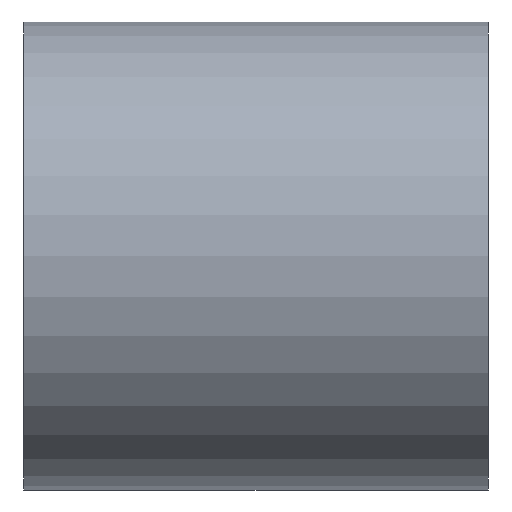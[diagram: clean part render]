
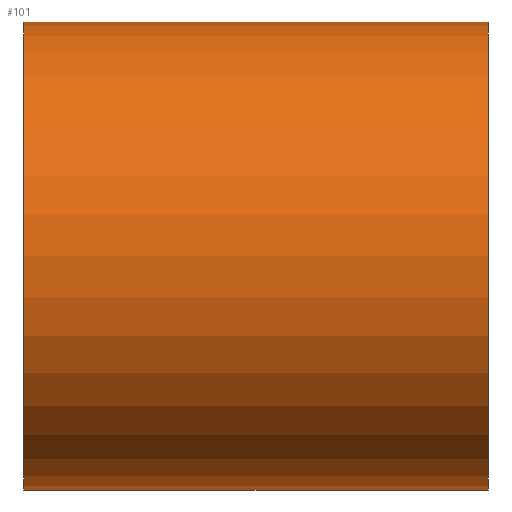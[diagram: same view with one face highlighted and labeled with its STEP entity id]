
A CAD part, front view. The second image highlights one B-rep face of the part: STEP entity #101.
In plain terms, the highlighted cylindrical face has radius 64 mm (diameter 128 mm), a full revolution.
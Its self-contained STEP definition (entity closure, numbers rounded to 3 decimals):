
#25=FACE_BOUND('',#48,.T.);
#33=FACE_OUTER_BOUND('',#47,.T.);
#47=EDGE_LOOP('',(#87));
#48=EDGE_LOOP('',(#88));
#57=CIRCLE('',#117,64.);
#58=CIRCLE('',#119,64.);
#65=VERTEX_POINT('',#174);
#66=VERTEX_POINT('',#177);
#73=EDGE_CURVE('',#65,#65,#57,.T.);
#74=EDGE_CURVE('',#66,#66,#58,.T.);
#87=ORIENTED_EDGE('',*,*,#73,.F.);
#88=ORIENTED_EDGE('',*,*,#74,.F.);
#94=CYLINDRICAL_SURFACE('',#118,64.);
#101=ADVANCED_FACE('',(#33,#25),#94,.T.);
#117=AXIS2_PLACEMENT_3D('',#175,#147,#148);
#118=AXIS2_PLACEMENT_3D('',#176,#149,#150);
#119=AXIS2_PLACEMENT_3D('',#178,#151,#152);
#147=DIRECTION('center_axis',(-1.,0.,0.));
#148=DIRECTION('ref_axis',(0.,-1.,0.));
#149=DIRECTION('center_axis',(1.,0.,0.));
#150=DIRECTION('ref_axis',(0.,-1.,0.));
#151=DIRECTION('center_axis',(1.,0.,0.));
#152=DIRECTION('ref_axis',(0.,-1.,0.));
#174=CARTESIAN_POINT('',(-63.5,64.,0.));
#175=CARTESIAN_POINT('Origin',(-63.5,0.,0.));
#176=CARTESIAN_POINT('Origin',(0.,0.,0.));
#177=CARTESIAN_POINT('',(63.5,64.,0.));
#178=CARTESIAN_POINT('Origin',(63.5,0.,0.));
